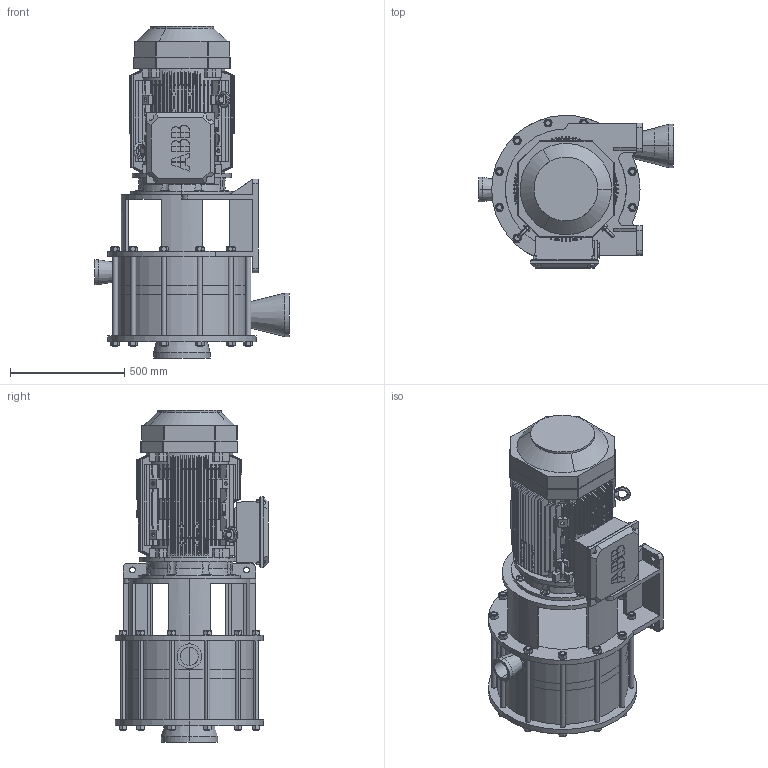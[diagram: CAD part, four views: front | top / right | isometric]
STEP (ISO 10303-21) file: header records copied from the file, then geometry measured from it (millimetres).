
FILE_DESCRIPTION((''),'2;1');
FILE_NAME('MJ150 Plastic--225S frame.stp','2010-08-04T14:27:19',(''),(''),'AutoCAD STEP 2000i','AutoCAD 2000i',', , ');
FILE_SCHEMA(('CONFIG_CONTROL_DESIGN'));
Length unit declared in the file: millimetre
Products named in the file (10): MJ150 PLASTIC--225S FRAME A; Motor; M3BP225SMB; M3BP200ML vertical; M3BP180ML; M3BP160MLB4 (long); AnyA; AnyAA; AnyAAA; Any
Assembly tree (5 placements, depth 2):
  MJ150 PLASTIC--225S FRAME A
    Motor
    M3BP225SMB
    M3BP200ML vertical
    M3BP180ML
    M3BP160MLB4 (long)
  AnyA
  AnyAA
  AnyAAA
  Any
Bounding box: 851 x 672.72 x 1455 mm (x, y, z)
Volume: 216133094.6 mm3; surface area: 8629378.2 mm2
Topology: 21 solids, 189 shells, 3189 faces, 8826 edges, 5735 vertices
Faces by surface type: plane 1225, torus 672, bspline 643, cylinder 537, cone 112
Entity records: 108530 total; most frequent: CARTESIAN_POINT 32921, ORIENTED_EDGE 17568, DIRECTION 14039, EDGE_CURVE 8784, VERTEX_POINT 5735, AXIS2_PLACEMENT_3D 5474, EDGE_LOOP 3381, FACE_OUTER_BOUND 3189
